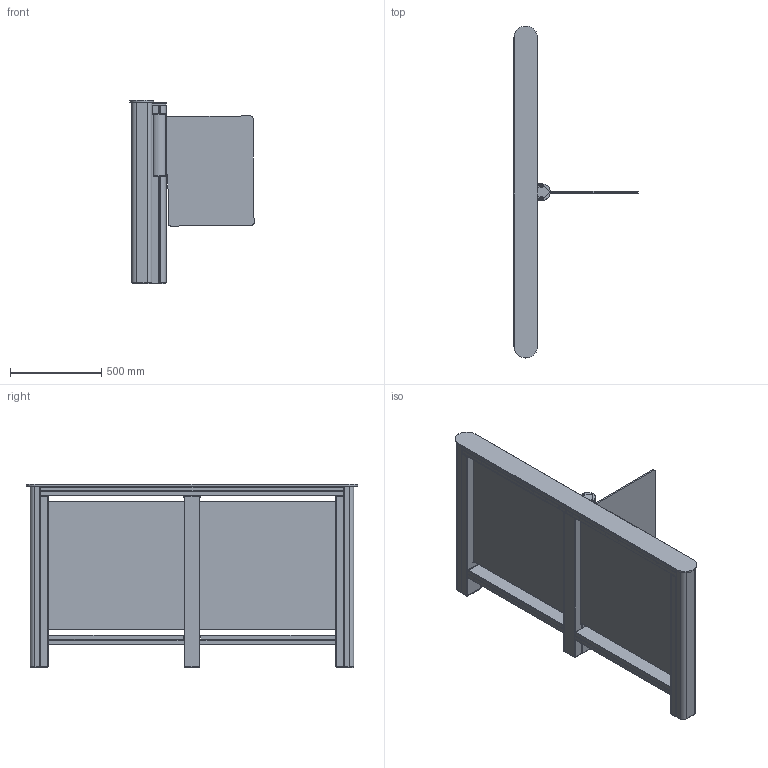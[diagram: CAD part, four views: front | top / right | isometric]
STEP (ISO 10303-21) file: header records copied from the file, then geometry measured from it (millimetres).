
FILE_DESCRIPTION(/* description */ ('Unknown'),/* implementation_level */ '2;1');
FILE_NAME(/* name */ 'ST-01_M_S_1000',/* time_stamp */ '2021-12-23T11:32:52+03:00',/* author */ ('Unknown'),/* organization */ ('Unknown'),/* preprocessor_version */ 'ST-DEVELOPER v18.1',/* originating_system */ 'Solid Edge',/* authorisation */ 'Unknown');
FILE_SCHEMA (('CONFIG_CONTROL_DESIGN'));
Products named in the file (113): ST-01_M_S; ST-01.1.006.00 砎魤鍱_oa_0; ST-01.1.002.00 栺鍣罻_oa_1; ST-01.1.002.02 砑僔蠂縺; ST-01.1.005.08 扻豵鵨; ST-01.1.031.00 沓劌錪 瀔魤鍱趌oa_2; ST-01.1.036.00 昜闉趌oa_3; BG65x25+PLG52+mufta_oa_4; ST-01.045.00ﾑﾁ ﾊ濱oa_5; ST-01.046.00 ﾊ濱oa_6; ST-01.046.09 Êîæóõ-Ïî óìîë÷àíèþ; ST-01.047.00 扰鍙欙樥燲oa_7; ST-01.760.00 Ïëàòà ýëåêòðîïðèâîäà_oa_8; ST-01.920.00 Êàáåëü ñîåäèíåíèÿ CAN; ST-01.1.004.00捘 昜闉趌oa_9; ST-01.008.00 ﾊ濱oa_10; ST-01.008.05 Êîæóõ; ST-01.008.00 ﾊ濱oa_11; ST-01.900.00 Êàáåëü ñîåäèíåíèÿ  DC; Äæàìïåð MJ-0_13; 淟檍瀖睯貗; ST-01.1.010.00ﾑﾁ ﾊ濱oa_12; ST-01.740.00 Ïëàòà èíäèêàòîðíîé ñòîéêè_oa_13; ST-01.1.010.10 Ñòåêëî-Ïî óìîë÷àíèþ; ST-01.1.011.00 ﾊ濱oa_14; ST-01.1.011.05 署赅; ST-01.1.009.00捘 扻豵鵨_oa_15; ST-01.009.25 Êîæóõ; ST-01.1.009.07 扻豵鵨; ST-01.013.00 扻豂塺oa_16; ST-01.1.016.00 扻豂塺oa_17; ST-01.1.015.00 扻豂塺oa_18; ST-01.1.015.05 Êîðîá; Øïèëüêè ñáîðêà_oa_19; Øïèëüêè ñáîðêà_oa_20; Øïèëüêè ñáîðêà 2_oa_21; Øïèëüêè ñáîðêà 2_oa_22; Øïèëüêè ñáîðêà_oa_23; Øïèëüêè ñáîðêà_oa_24; Øïèëüêè ñáîðêà 2_oa_25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
Assembly tree (137 placements, depth 5):
  ST-01_M_S
    ST-01.1.006.00 砎魤鍱_oa_0
      ST-01.1.002.00 栺鍣罻_oa_1
        ST-01.1.002.02 砑僔蠂縺
      ST-01.1.005.08 扻豵鵨
      ST-01.1.031.00 沓劌錪 瀔魤鍱趌oa_2
        ST-01.1.036.00 昜闉趌oa_3
        BG65x25+PLG52+mufta_oa_4
      ST-01.045.00ﾑﾁ ﾊ濱oa_5
        ST-01.046.00 ﾊ濱oa_6
          ST-01.046.09 Êîæóõ-Ïî óìîë÷àíèþ
        ST-01.047.00 扰鍙欙樥燲oa_7
      ST-01.760.00 Ïëàòà ýëåêòðîïðèâîäà_oa_8
      ST-01.920.00 Êàáåëü ñîåäèíåíèÿ CAN
      ST-01.1.004.00捘 昜闉趌oa_9
      ST-01.008.00 ﾊ濱oa_10
        ST-01.008.05 Êîæóõ
      ST-01.008.00 ﾊ濱oa_11
        ST-01.008.05 Êîæóõ
      ST-01.900.00 Êàáåëü ñîåäèíåíèÿ  DC
      Äæàìïåð MJ-0_13
      淟檍瀖睯貗  x3
    ST-01.1.010.00ﾑﾁ ﾊ濱oa_12
      ST-01.740.00 Ïëàòà èíäèêàòîðíîé ñòîéêè_oa_13
      ST-01.1.010.10 Ñòåêëî-Ïî óìîë÷àíèþ
      ST-01.1.011.00 ﾊ濱oa_14
        ST-01.1.011.05 署赅
      ST-01.1.009.00捘 扻豵鵨_oa_15
        ST-01.009.25 Êîæóõ
        ST-01.1.009.07 扻豵鵨
    ST-01.013.00 扻豂塺oa_16
      ST-01.1.016.00 扻豂塺oa_17
        ST-01.1.015.00 扻豂塺oa_18
          ST-01.1.015.05 Êîðîá
          Øïèëüêè ñáîðêà_oa_19
          Øïèëüêè ñáîðêà_oa_20
          Øïèëüêè ñáîðêà 2_oa_21
          Øïèëüêè ñáîðêà 2_oa_22
          Øïèëüêè ñáîðêà_oa_23
          Øïèëüêè ñáîðêà_oa_24
          Øïèëüêè ñáîðêà 2_oa_25
          Øïèëüêè ñáîðêà 2_oa_26
          Øïèëüêà âèðò
        ST-01.016.05 Êîðîá--01
      ST-01.017.00 Ïëàñòèíà â ñáîðå_oa_27
      ST-01.706.00 Ïëàòà ïðèåìíèêîâ_oa_28
      ST-01.706.00 Ïëàòà ïðèåìíèêîâ_oa_29
      ST-01.716.00 Ïëàòà ïðèåìíèêîâ_oa_30
      ST-01.716.00 Ïëàòà ïðèåìíèêîâ_oa_31
      ST-01.050.15 Ïëàñòèíà (ñâåòîôèëüòð)-795  x2
      Ëåíòà ìîíòàíæíàÿ äâóñòîðîííÿÿ 9473PC VHB 19 ìì_âèðò
      ST-01.014.00 扻豂塺oa_32
      ST-01.910.00 忺摎錪 膰豂摳 CAN_睯貗  x4
      ST-01.910.00-01 忺摎錪 膰豂摳 CAN_睯貗
      ST-01.910.00-02 忺摎錪 膰豂摳 CAN_睯貗  x3
      ST-01.931.00 忺摎錪 襜贀槻鍣 鴈儰罻灕醂睯貗
      ST-01.932.00 Êàáåëü èíäèêàöèè ñòîéêè_âèðò
      ST-01.940.00 Êàáåëü èíäèêàöèè ïðîõîäà_âèðò
      淟檍瀖睯貗  x5
      ST-01.050.15 Ïëàñòèíà (ñâåòîôèëüòð)-1662
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Bounding box: 680.19 x 1820 x 1004.7 mm (x, y, z)
Volume: 18822278.9 mm3; surface area: 9427403.4 mm2
Topology: 39 solids, 39 shells, 2762 faces, 7242 edges, 4529 vertices
Faces by surface type: plane 1972, cylinder 650, bspline 112, cone 28
Full cylindrical faces by diameter (mm): 3.3 x46, 3.5 x8, 4 x4, 5 x104, 5.5 x6, 6 x4, 7 x17, 11 x15, 12 x13, 13.5 x2, 16 x4, 87 x1
Entity records: 70928 total; most frequent: CARTESIAN_POINT 15021, ORIENTED_EDGE 11012, DIRECTION 10684, EDGE_CURVE 5506, LINE 4260, VECTOR 4260, VERTEX_POINT 3558, AXIS2_PLACEMENT_3D 3212
